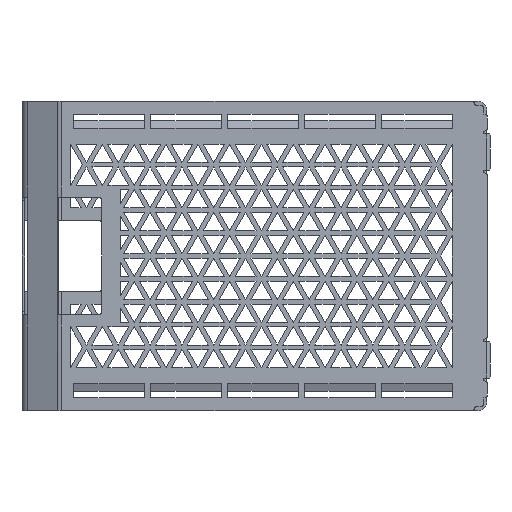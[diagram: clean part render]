
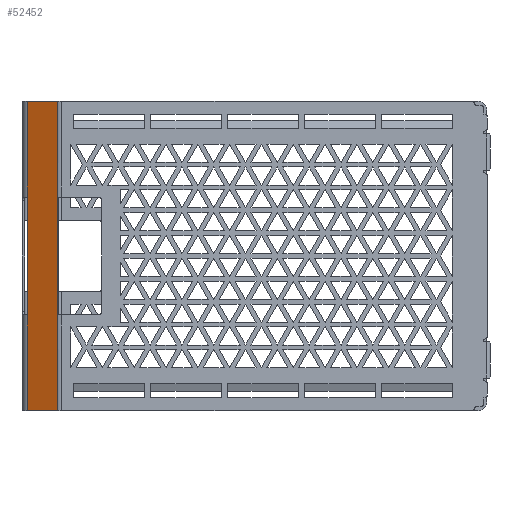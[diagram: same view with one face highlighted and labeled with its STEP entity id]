
A CAD part, left-side view. The second image highlights one B-rep face of the part: STEP entity #52452.
In plain terms, the highlighted planar face has unit normal (-0.905, 0.426, 0).
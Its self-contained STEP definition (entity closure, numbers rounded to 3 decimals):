
#97 = CARTESIAN_POINT ( 'NONE',  ( 339.949, 55.051, -26.3 ) ) ;
#2421 = EDGE_CURVE ( 'NONE', #4043, #53315, #59549, .T. ) ;
#4043 = VERTEX_POINT ( 'NONE', #22262 ) ;
#4129 = VECTOR ( 'NONE', #46151, 1000. ) ;
#5382 = EDGE_CURVE ( 'NONE', #33167, #25284, #19212, .T. ) ;
#6438 = CARTESIAN_POINT ( 'NONE',  ( 341.695, 58.758, 32.75 ) ) ;
#8457 = VERTEX_POINT ( 'NONE', #6438 ) ;
#9258 = VECTOR ( 'NONE', #24895, 1000. ) ;
#9430 = CARTESIAN_POINT ( 'NONE',  ( 337.748, 50.378, -19.9 ) ) ;
#11659 = DIRECTION ( 'NONE',  ( 0., 0., 1. ) ) ;
#11694 = EDGE_LOOP ( 'NONE', ( #62506, #55962, #32183, #24270, #63007, #22815, #27552, #26960 ) ) ;
#12619 = CARTESIAN_POINT ( 'NONE',  ( 341.641, 58.643, 6.3 ) ) ;
#13584 = DIRECTION ( 'NONE',  ( 0.426, 0.905, 0. ) ) ;
#15190 = LINE ( 'NONE', #97, #41232 ) ;
#15728 = FACE_OUTER_BOUND ( 'NONE', #11694, .T. ) ;
#17569 = DIRECTION ( 'NONE',  ( 0., 0., -1. ) ) ;
#17673 = VERTEX_POINT ( 'NONE', #27483 ) ;
#19212 = LINE ( 'NONE', #25261, #9258 ) ;
#20168 = EDGE_CURVE ( 'NONE', #28159, #4043, #61415, .T. ) ;
#21970 = LINE ( 'NONE', #25673, #4129 ) ;
#22262 = CARTESIAN_POINT ( 'NONE',  ( 337.748, 50.378, -52.75 ) ) ;
#22815 = ORIENTED_EDGE ( 'NONE', *, *, #33445, .T. ) ;
#24270 = ORIENTED_EDGE ( 'NONE', *, *, #38549, .T. ) ;
#24877 = CARTESIAN_POINT ( 'NONE',  ( 341.695, 58.758, -32.65 ) ) ;
#24895 = DIRECTION ( 'NONE',  ( 0.426, 0.905, 0. ) ) ;
#25261 = CARTESIAN_POINT ( 'NONE',  ( 400.134, 182.82, 6.3 ) ) ;
#25284 = VERTEX_POINT ( 'NONE', #51279 ) ;
#25673 = CARTESIAN_POINT ( 'NONE',  ( 341.641, 58.643, -19.9 ) ) ;
#26960 = ORIENTED_EDGE ( 'NONE', *, *, #60005, .T. ) ;
#27336 = EDGE_CURVE ( 'NONE', #17673, #55424, #15190, .T. ) ;
#27483 = CARTESIAN_POINT ( 'NONE',  ( 341.641, 58.643, -26.3 ) ) ;
#27552 = ORIENTED_EDGE ( 'NONE', *, *, #27336, .T. ) ;
#28159 = VERTEX_POINT ( 'NONE', #61948 ) ;
#28327 = CARTESIAN_POINT ( 'NONE',  ( 341.695, 58.758, -26.3 ) ) ;
#30301 = DIRECTION ( 'NONE',  ( 0.426, 0.905, 0. ) ) ;
#31476 = VECTOR ( 'NONE', #45346, 1000. ) ;
#32183 = ORIENTED_EDGE ( 'NONE', *, *, #57698, .T. ) ;
#33167 = VERTEX_POINT ( 'NONE', #12619 ) ;
#33445 = EDGE_CURVE ( 'NONE', #33167, #17673, #21970, .T. ) ;
#34539 = CARTESIAN_POINT ( 'NONE',  ( 341.695, 58.758, -52.75 ) ) ;
#35616 = LINE ( 'NONE', #24877, #31476 ) ;
#36191 = CARTESIAN_POINT ( 'NONE',  ( 341.695, 58.758, -7.15 ) ) ;
#36218 = DIRECTION ( 'NONE',  ( -0.905, 0.426, 0. ) ) ;
#36537 = CARTESIAN_POINT ( 'NONE',  ( 339.949, 55.051, -19.9 ) ) ;
#38549 = EDGE_CURVE ( 'NONE', #8457, #25284, #63890, .T. ) ;
#40848 = DIRECTION ( 'NONE',  ( 0.426, 0.905, 0. ) ) ;
#41232 = VECTOR ( 'NONE', #30301, 1000. ) ;
#42297 = AXIS2_PLACEMENT_3D ( 'NONE', #36537, #36218, #11659 ) ;
#42565 = PLANE ( 'NONE',  #42297 ) ;
#45215 = LINE ( 'NONE', #61981, #46424 ) ;
#45346 = DIRECTION ( 'NONE',  ( 0., 0., -1. ) ) ;
#45695 = VECTOR ( 'NONE', #13584, 1000. ) ;
#46151 = DIRECTION ( 'NONE',  ( 0., 0., -1. ) ) ;
#46424 = VECTOR ( 'NONE', #40848, 1000. ) ;
#50154 = CARTESIAN_POINT ( 'NONE',  ( 335.508, 45.622, -52.75 ) ) ;
#50789 = VECTOR ( 'NONE', #17569, 1000. ) ;
#51007 = VECTOR ( 'NONE', #55059, 1000. ) ;
#51279 = CARTESIAN_POINT ( 'NONE',  ( 341.695, 58.758, 6.3 ) ) ;
#52452 = ADVANCED_FACE ( 'NONE', ( #15728 ), #42565, .T. ) ;
#53315 = VERTEX_POINT ( 'NONE', #34539 ) ;
#55059 = DIRECTION ( 'NONE',  ( 0., 0., -1. ) ) ;
#55424 = VERTEX_POINT ( 'NONE', #28327 ) ;
#55962 = ORIENTED_EDGE ( 'NONE', *, *, #20168, .F. ) ;
#57698 = EDGE_CURVE ( 'NONE', #28159, #8457, #45215, .T. ) ;
#59549 = LINE ( 'NONE', #50154, #45695 ) ;
#60005 = EDGE_CURVE ( 'NONE', #55424, #53315, #35616, .T. ) ;
#61415 = LINE ( 'NONE', #9430, #51007 ) ;
#61948 = CARTESIAN_POINT ( 'NONE',  ( 337.748, 50.378, 32.75 ) ) ;
#61981 = CARTESIAN_POINT ( 'NONE',  ( 339.949, 55.051, 32.75 ) ) ;
#62506 = ORIENTED_EDGE ( 'NONE', *, *, #2421, .F. ) ;
#63007 = ORIENTED_EDGE ( 'NONE', *, *, #5382, .F. ) ;
#63890 = LINE ( 'NONE', #36191, #50789 ) ;
